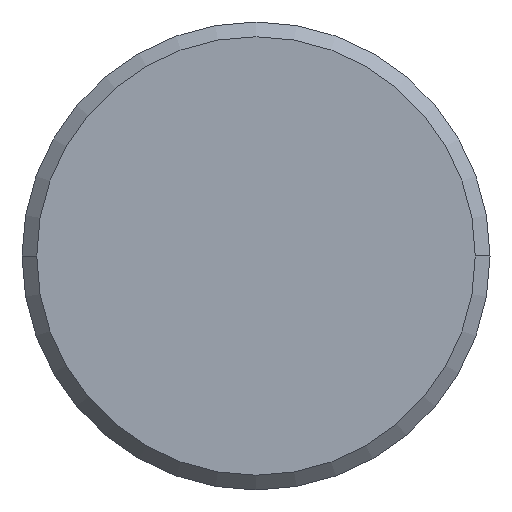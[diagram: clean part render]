
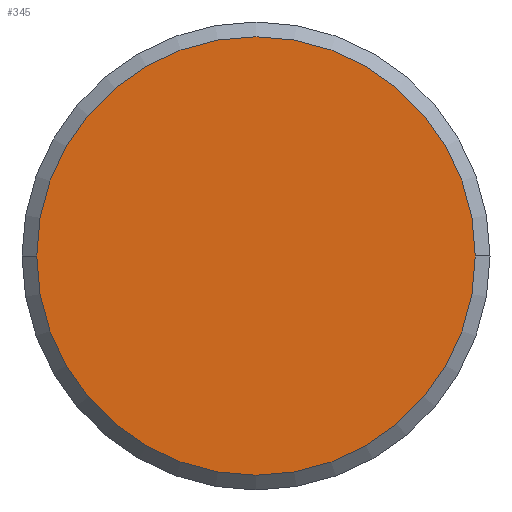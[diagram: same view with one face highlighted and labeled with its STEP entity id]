
A CAD part, left-side view. The second image highlights one B-rep face of the part: STEP entity #345.
In plain terms, the highlighted planar face has unit normal (-1, 0, 0).
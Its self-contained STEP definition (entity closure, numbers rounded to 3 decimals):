
#16 = AXIS2_PLACEMENT_3D ( 'NONE', #58, #275, #395 ) ;
#19 = AXIS2_PLACEMENT_3D ( 'NONE', #98, #311, #258 ) ;
#32 = DIRECTION ( 'NONE',  ( 0., -1., 0. ) ) ;
#52 = ORIENTED_EDGE ( 'NONE', *, *, #89, .F. ) ;
#58 = CARTESIAN_POINT ( 'NONE',  ( -52.975, 0., 0. ) ) ;
#77 = EDGE_LOOP ( 'NONE', ( #175, #52 ) ) ;
#83 = EDGE_CURVE ( 'NONE', #144, #112, #300, .T. ) ;
#89 = EDGE_CURVE ( 'NONE', #112, #144, #421, .T. ) ;
#98 = CARTESIAN_POINT ( 'NONE',  ( -52.975, 0., 0. ) ) ;
#112 = VERTEX_POINT ( 'NONE', #198 ) ;
#144 = VERTEX_POINT ( 'NONE', #401 ) ;
#172 = FACE_OUTER_BOUND ( 'NONE', #77, .T. ) ;
#175 = ORIENTED_EDGE ( 'NONE', *, *, #83, .F. ) ;
#198 = CARTESIAN_POINT ( 'NONE',  ( -52.975, -7.438, 0. ) ) ;
#258 = DIRECTION ( 'NONE',  ( 0., 1., 0. ) ) ;
#275 = DIRECTION ( 'NONE',  ( 1., 0., 0. ) ) ;
#293 = PLANE ( 'NONE',  #352 ) ;
#300 = CIRCLE ( 'NONE', #19, 7.437 ) ;
#311 = DIRECTION ( 'NONE',  ( 1., 0., 0. ) ) ;
#340 = DIRECTION ( 'NONE',  ( -1., 0., 0. ) ) ;
#345 = ADVANCED_FACE ( 'NONE', ( #172 ), #293, .T. ) ;
#352 = AXIS2_PLACEMENT_3D ( 'NONE', #430, #340, #32 ) ;
#395 = DIRECTION ( 'NONE',  ( 0., 1., 0. ) ) ;
#401 = CARTESIAN_POINT ( 'NONE',  ( -52.975, 7.437, 0. ) ) ;
#421 = CIRCLE ( 'NONE', #16, 7.437 ) ;
#430 = CARTESIAN_POINT ( 'NONE',  ( -52.975, 0., 0. ) ) ;
